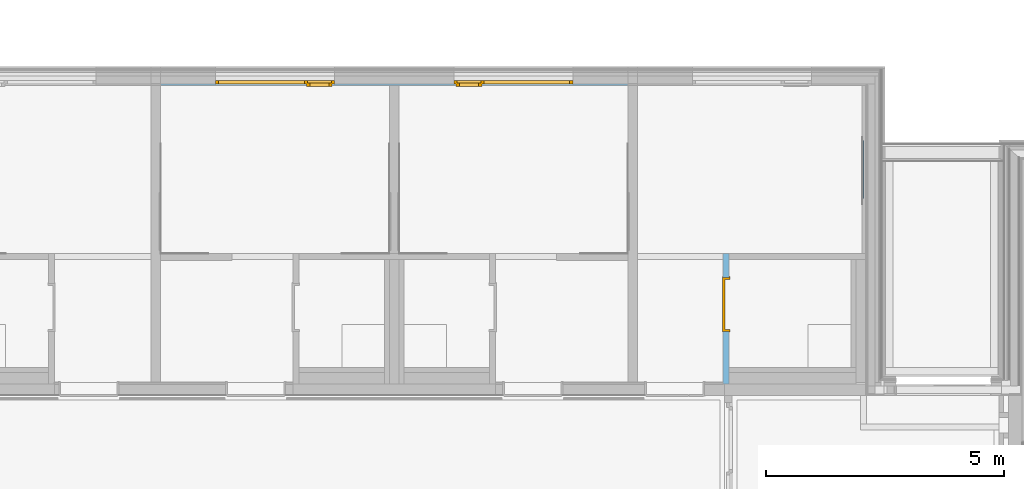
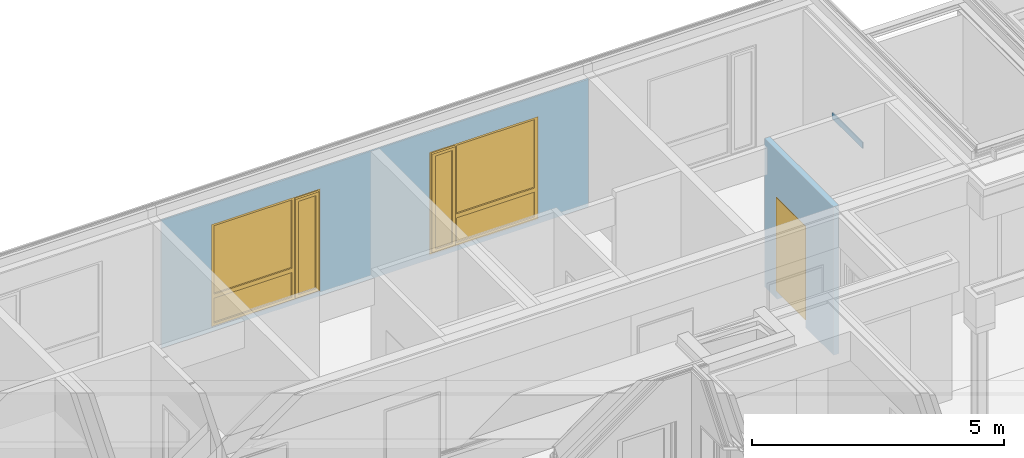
# One storey, part 113 of 207: 2 windows, 1 door, 1 wall, 3 openings, plus 2 elements that do not belong to this part.
"""IFC4 building model written with IfcOpenShell, lengths in metres."""

from ifc_helpers import new_model, entity, si_unit, converted_unit, derived_unit, frame, frame_2d, origin, origin_with_axes, place, context, subcontext, project, spatial, polyline, rectangle, outline, extrude, closed_shell, open_shell, faceted_brep, surface_model, source, transform, mapped, material, type_object, element, fill, save


model = new_model("IFC4")

# Units and contexts
model_context = context("Model", 3, precision=1e-05, world=origin())
body_context = subcontext(model_context, "Body", "Model", "MODEL_VIEW")
ifc_project = project(units=[si_unit("LENGTHUNIT", "METRE"), si_unit("AREAUNIT", "SQUARE_METRE"), si_unit("VOLUMEUNIT", "CUBIC_METRE"), si_unit("MASSUNIT", "GRAM", prefix="KILO"), converted_unit("PLANEANGLEUNIT", "DEGREE", entity("IfcPlaneAngleMeasure", 0.0174532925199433), si_unit("PLANEANGLEUNIT", "RADIAN"), dimensions=[0, 0, 0, 0, 0, 0, 0]), derived_unit("THERMALTRANSMITTANCEUNIT", [(si_unit("POWERUNIT", "WATT"), 1), (si_unit("THERMODYNAMICTEMPERATUREUNIT", "KELVIN"), -1), (si_unit("LENGTHUNIT", "METRE"), -2)]), derived_unit("VOLUMETRICFLOWRATEUNIT", [(si_unit("LENGTHUNIT", "METRE"), 3), (converted_unit("TIMEUNIT", "hour", entity("IfcTimeMeasure", 3600.0), si_unit("TIMEUNIT", "SECOND"), dimensions=[0, 0, 1, 0, 0, 0, 0]), -1), (si_unit("LENGTHUNIT", "METRE"), -1)])], contexts=[model_context])

# Site, building, storey
site_placement = place(None, origin())
site = spatial("IfcSite", under=ifc_project, at=site_placement, Name="Psychiatrie Neubau Wunstorf", CompositionType="ELEMENT")
building_placement = place(site_placement, origin())
building = spatial("IfcBuilding", under=site, at=building_placement, Name="Neubau H2 Stationsgebäude", CompositionType="ELEMENT")
storey_placement = place(building_placement, frame((0.0, 0.0, -0.2)))
storey = spatial("IfcBuildingStorey", under=building, at=storey_placement, Name="H2 Ebene 0", CompositionType="ELEMENT", Elevation=-0.2)

# Wall, openings, windows
ifc_material_1 = material(Name="WA-LB")
wall_1_placement = place(storey_placement, frame((20.1, 30.614, 0.5), z_axis=(0.0, 0.0, 1.0), x_axis=(1.0, -7.42444654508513e-16, 0.0)))
wall_1 = element("IfcWall", 1, at=wall_1_placement, inside=storey, material=ifc_material_1, context=body_context, shape_type="SweptSolid", body=[
    extrude(rectangle(XDim=9.8, YDim=0.036, at=frame_2d((4.9, 0.018), x_axis=(1.0, 0.0))), origin_with_axes(), (0.0, 0.0, 1.0), 3.1),
])
opening_1_placement = place(wall_1_placement, frame((1.15, 0.0, 0.1), z_axis=(0.0, 1.0, 0.0), x_axis=(0.0, 0.0, 1.0)))
opening_1 = element("IfcOpeningElement", 2, at=opening_1_placement, cuts=wall_1, Name="Fensteröffnung", ObjectType="Opening", context=body_context, shape_type="SweptSolid", body=[
    extrude(outline(polyline([(2.5, 2.5), (2.5, 0.0), (0.0, 0.0), (0.0, 2.5), (2.5, 2.5)])), origin_with_axes(), (0.0, 0.0, 1.0), 0.036),
])
opening_2_placement = place(wall_1_placement, frame((6.15, 0.0, 0.1), z_axis=(0.0, 1.0, 0.0), x_axis=(0.0, 0.0, 1.0)))
opening_2 = element("IfcOpeningElement", 3, at=opening_2_placement, cuts=wall_1, Name="Fensteröffnung", ObjectType="Opening", context=body_context, shape_type="SweptSolid", body=[
    extrude(outline(polyline([(2.5, 2.5), (2.5, 0.0), (0.0, 0.0), (0.0, 2.5), (2.5, 2.5)])), origin_with_axes(), (0.0, 0.0, 1.0), 0.036),
])
shared_shape_1 = source(origin_with_axes(), body_context, "Body", "SurfaceModel", [
    surface_model("IfcShellBasedSurfaceModel", [(2.5, 0.0, 2.5), (2.5, 0.0, 0.0), (2.43, 0.0, 0.0), (2.43, 0.0, 2.5), (2.5, 0.0699999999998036, 0.0), (2.5, 0.0699999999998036, 2.5), (2.43, 0.0699999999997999, 2.5), (2.43, 0.0699999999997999, 0.0)], [closed_shell([[[0, 1, 2, 3]], [[4, 5, 6, 7]], [[1, 0, 5, 4]], [[2, 1, 4, 7]], [[3, 2, 7, 6]], [[0, 3, 6, 5]]], orient=[[False], [False], [False], [False], [False], [False]])]),
    surface_model("IfcShellBasedSurfaceModel", [(0.07, 0.0, 2.5), (0.07, 0.0, 0.0), (0.0, 0.0, 0.0), (0.0, 0.0, 2.5), (0.07, 0.0699999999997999, 0.0), (0.07, 0.0699999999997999, 2.5), (0.0, 0.0699999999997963, 2.5), (0.0, 0.0699999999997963, 0.0)], [closed_shell([[[0, 1, 2, 3]], [[4, 5, 6, 7]], [[1, 0, 5, 4]], [[2, 1, 4, 7]], [[3, 2, 7, 6]], [[0, 3, 6, 5]]], orient=[[False], [False], [False], [False], [False], [False]])]),
    surface_model("IfcShellBasedSurfaceModel", [(2.43, 0.0, 0.07), (2.43, 0.0, 0.0), (0.07, 0.0, 0.0), (0.07, 0.0, 0.07), (2.43, 0.0699999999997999, 0.0), (2.43, 0.0699999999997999, 0.07), (0.07, 0.0699999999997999, 0.07), (0.07, 0.0699999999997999, 0.0)], [closed_shell([[[0, 1, 2, 3]], [[4, 5, 6, 7]], [[1, 0, 5, 4]], [[2, 1, 4, 7]], [[3, 2, 7, 6]], [[0, 3, 6, 5]]], orient=[[False], [False], [False], [False], [False], [False]])]),
    surface_model("IfcShellBasedSurfaceModel", [(2.43, 0.0, 2.5), (2.43, 0.0, 2.43), (0.07, 0.0, 2.43), (0.07, 0.0, 2.5), (2.43, 0.0699999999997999, 2.43), (2.43, 0.0699999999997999, 2.5), (0.07, 0.0699999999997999, 2.5), (0.07, 0.0699999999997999, 2.43)], [closed_shell([[[0, 1, 2, 3]], [[4, 5, 6, 7]], [[1, 0, 5, 4]], [[2, 1, 4, 7]], [[3, 2, 7, 6]], [[0, 3, 6, 5]]], orient=[[False], [False], [False], [False], [False], [False]])]),
    surface_model("IfcShellBasedSurfaceModel", [(1.934285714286, 0.0, 2.43), (1.934285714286, 0.0, 0.07), (1.864285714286, 0.0, 0.07), (1.864285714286, 0.0, 2.43), (1.934285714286, 0.0699999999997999, 0.07), (1.934285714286, 0.0699999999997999, 2.43), (1.864285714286, 0.0699999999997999, 2.43), (1.864285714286, 0.0699999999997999, 0.07)], [closed_shell([[[0, 1, 2, 3]], [[4, 5, 6, 7]], [[1, 0, 5, 4]], [[2, 1, 4, 7]], [[3, 2, 7, 6]], [[0, 3, 6, 5]]], orient=[[False], [False], [False], [False], [False], [False]])]),
    surface_model("IfcShellBasedSurfaceModel", [(2.45, -0.0500000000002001, 2.45), (2.45, -0.0500000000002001, 0.05), (2.38, -0.0500000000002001, 0.05), (2.38, -0.0500000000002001, 2.45), (2.45, 0.0199999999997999, 0.05), (2.45, 0.0199999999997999, 2.45), (2.38, 0.0199999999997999, 2.45), (2.38, 0.0199999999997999, 0.05)], [closed_shell([[[0, 1, 2, 3]], [[4, 5, 6, 7]], [[1, 0, 5, 4]], [[2, 1, 4, 7]], [[3, 2, 7, 6]], [[0, 3, 6, 5]]], orient=[[False], [False], [False], [False], [False], [False]])]),
    surface_model("IfcShellBasedSurfaceModel", [(1.984285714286, -0.0500000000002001, 2.45), (1.984285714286, -0.0500000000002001, 0.05), (1.914285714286, -0.0500000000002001, 0.05), (1.914285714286, -0.0500000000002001, 2.45), (1.984285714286, 0.0199999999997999, 0.05), (1.984285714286, 0.0199999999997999, 2.45), (1.914285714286, 0.0199999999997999, 2.45), (1.914285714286, 0.0199999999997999, 0.05)], [closed_shell([[[0, 1, 2, 3]], [[4, 5, 6, 7]], [[1, 0, 5, 4]], [[2, 1, 4, 7]], [[3, 2, 7, 6]], [[0, 3, 6, 5]]], orient=[[False], [False], [False], [False], [False], [False]])]),
    surface_model("IfcShellBasedSurfaceModel", [(2.38, -0.0500000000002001, 0.12), (2.38, -0.0500000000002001, 0.05), (1.984285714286, -0.0500000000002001, 0.05), (1.984285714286, -0.0500000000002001, 0.12), (2.38, 0.0199999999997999, 0.05), (2.38, 0.0199999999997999, 0.12), (1.984285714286, 0.0199999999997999, 0.12), (1.984285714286, 0.0199999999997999, 0.05)], [closed_shell([[[0, 1, 2, 3]], [[4, 5, 6, 7]], [[1, 0, 5, 4]], [[2, 1, 4, 7]], [[3, 2, 7, 6]], [[0, 3, 6, 5]]], orient=[[False], [False], [False], [False], [False], [False]])]),
    surface_model("IfcShellBasedSurfaceModel", [(2.38, -0.0500000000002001, 2.45), (2.38, -0.0500000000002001, 2.38), (1.984285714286, -0.0500000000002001, 2.38), (1.984285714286, -0.0500000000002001, 2.45), (2.38, 0.0199999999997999, 2.38), (2.38, 0.0199999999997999, 2.45), (1.984285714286, 0.0199999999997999, 2.45), (1.984285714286, 0.0199999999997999, 2.38)], [closed_shell([[[0, 1, 2, 3]], [[4, 5, 6, 7]], [[1, 0, 5, 4]], [[2, 1, 4, 7]], [[3, 2, 7, 6]], [[0, 3, 6, 5]]], orient=[[False], [False], [False], [False], [False], [False]])]),
    surface_model("IfcShellBasedSurfaceModel", [(1.864285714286, 0.0, 0.77), (1.864285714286, 0.0, 0.67), (0.07, 0.0, 0.67), (0.07, 0.0, 0.77), (1.864285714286, 0.0699999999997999, 0.67), (1.864285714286, 0.0699999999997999, 0.77), (0.07, 0.0699999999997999, 0.77), (0.07, 0.0699999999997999, 0.67)], [closed_shell([[[0, 1, 2, 3]], [[4, 5, 6, 7]], [[1, 0, 5, 4]], [[2, 1, 4, 7]], [[3, 2, 7, 6]], [[0, 3, 6, 5]]], orient=[[False], [False], [False], [False], [False], [False]])]),
    surface_model("IfcShellBasedSurfaceModel", [(2.38, -0.0150000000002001, 0.12), (1.984285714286, -0.0150000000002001, 0.12), (1.984285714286, -0.0150000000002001, 2.38), (2.38, -0.0150000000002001, 2.38)], [open_shell([[[0, 1, 2, 3]]], orient=[[False]])]),
    surface_model("IfcShellBasedSurfaceModel", [(1.864285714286, 0.0349999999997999, 0.07), (0.07, 0.0349999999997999, 0.07), (0.07, 0.0349999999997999, 0.67), (1.864285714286, 0.0349999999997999, 0.67)], [open_shell([[[0, 1, 2, 3]]], orient=[[False]])]),
    surface_model("IfcShellBasedSurfaceModel", [(1.864285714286, 0.0349999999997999, 0.77), (0.07, 0.0349999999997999, 0.77), (0.07, 0.0349999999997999, 2.43), (1.864285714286, 0.0349999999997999, 2.43)], [open_shell([[[0, 1, 2, 3]]], orient=[[False]])]),
])
window_1_placement = place(opening_1_placement, frame((0.0, 0.0, 0.03), z_axis=(1.0, 0.0, 0.0), x_axis=(0.0, 1.0, -7.12746868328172e-16)))
window_1 = element("IfcWindow", 4, at=window_1_placement, inside=storey, Name="Fenster", OverallHeight=2.5, OverallWidth=2.5, PartitioningType="USERDEFINED", PredefinedType="WINDOW", context=body_context, shape_type="MappedRepresentation", body=[
    mapped(shared_shape_1, transform((0.0, 0.0, 0.0), x_axis=(1.0, 0.0, 0.0), y_axis=(0.0, 1.0, 0.0), z_axis=(0.0, 0.0, 1.0), scale=1.0)),
])
fill(opening_1, window_1)
shared_shape_2 = source(origin_with_axes(), body_context, "Body", "SurfaceModel", [
    surface_model("IfcShellBasedSurfaceModel", [(0.0, 0.0, 2.5), (0.07, 0.0, 2.5), (0.07, 0.0, 0.0), (0.0, 0.0, 0.0), (0.0, 0.0699999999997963, 0.0), (0.07, 0.0699999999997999, 0.0), (0.07, 0.0699999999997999, 2.5), (0.0, 0.0699999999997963, 2.5)], [closed_shell([[[0, 1, 2, 3]], [[4, 5, 6, 7]], [[3, 4, 7, 0]], [[2, 5, 4, 3]], [[1, 6, 5, 2]], [[0, 7, 6, 1]]], orient=[[False], [False], [False], [False], [False], [False]])]),
    surface_model("IfcShellBasedSurfaceModel", [(2.43, 0.0, 2.5), (2.5, 0.0, 2.5), (2.5, 0.0, 0.0), (2.43, 0.0, 0.0), (2.43, 0.0699999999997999, 0.0), (2.5, 0.0699999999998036, 0.0), (2.5, 0.0699999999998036, 2.5), (2.43, 0.0699999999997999, 2.5)], [closed_shell([[[0, 1, 2, 3]], [[4, 5, 6, 7]], [[3, 4, 7, 0]], [[2, 5, 4, 3]], [[1, 6, 5, 2]], [[0, 7, 6, 1]]], orient=[[False], [False], [False], [False], [False], [False]])]),
    surface_model("IfcShellBasedSurfaceModel", [(0.07, 0.0, 0.07), (2.43, 0.0, 0.07), (2.43, 0.0, 0.0), (0.07, 0.0, 0.0), (0.07, 0.0699999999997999, 0.0), (2.43, 0.0699999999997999, 0.0), (2.43, 0.0699999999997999, 0.07), (0.07, 0.0699999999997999, 0.07)], [closed_shell([[[0, 1, 2, 3]], [[4, 5, 6, 7]], [[3, 4, 7, 0]], [[2, 5, 4, 3]], [[1, 6, 5, 2]], [[0, 7, 6, 1]]], orient=[[False], [False], [False], [False], [False], [False]])]),
    surface_model("IfcShellBasedSurfaceModel", [(0.07, 0.0, 2.5), (2.43, 0.0, 2.5), (2.43, 0.0, 2.43), (0.07, 0.0, 2.43), (0.07, 0.0699999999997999, 2.43), (2.43, 0.0699999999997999, 2.43), (2.43, 0.0699999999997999, 2.5), (0.07, 0.0699999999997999, 2.5)], [closed_shell([[[0, 1, 2, 3]], [[4, 5, 6, 7]], [[3, 4, 7, 0]], [[2, 5, 4, 3]], [[1, 6, 5, 2]], [[0, 7, 6, 1]]], orient=[[False], [False], [False], [False], [False], [False]])]),
    surface_model("IfcShellBasedSurfaceModel", [(0.565714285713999, 0.0, 2.43), (0.635714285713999, 0.0, 2.43), (0.635714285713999, 0.0, 0.07), (0.565714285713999, 0.0, 0.07), (0.565714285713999, 0.0699999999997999, 0.07), (0.635714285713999, 0.0699999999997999, 0.07), (0.635714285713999, 0.0699999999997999, 2.43), (0.565714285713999, 0.0699999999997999, 2.43)], [closed_shell([[[0, 1, 2, 3]], [[4, 5, 6, 7]], [[3, 4, 7, 0]], [[2, 5, 4, 3]], [[1, 6, 5, 2]], [[0, 7, 6, 1]]], orient=[[False], [False], [False], [False], [False], [False]])]),
    surface_model("IfcShellBasedSurfaceModel", [(0.05, -0.0500000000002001, 2.45), (0.12, -0.0500000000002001, 2.45), (0.12, -0.0500000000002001, 0.05), (0.05, -0.0500000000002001, 0.05), (0.05, 0.0199999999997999, 0.05), (0.12, 0.0199999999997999, 0.05), (0.12, 0.0199999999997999, 2.45), (0.05, 0.0199999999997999, 2.45)], [closed_shell([[[0, 1, 2, 3]], [[4, 5, 6, 7]], [[3, 4, 7, 0]], [[2, 5, 4, 3]], [[1, 6, 5, 2]], [[0, 7, 6, 1]]], orient=[[False], [False], [False], [False], [False], [False]])]),
    surface_model("IfcShellBasedSurfaceModel", [(0.515714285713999, -0.0500000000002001, 2.45), (0.585714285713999, -0.0500000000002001, 2.45), (0.585714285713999, -0.0500000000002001, 0.05), (0.515714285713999, -0.0500000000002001, 0.05), (0.515714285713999, 0.0199999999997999, 0.05), (0.585714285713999, 0.0199999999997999, 0.05), (0.585714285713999, 0.0199999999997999, 2.45), (0.515714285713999, 0.0199999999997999, 2.45)], [closed_shell([[[0, 1, 2, 3]], [[4, 5, 6, 7]], [[3, 4, 7, 0]], [[2, 5, 4, 3]], [[1, 6, 5, 2]], [[0, 7, 6, 1]]], orient=[[False], [False], [False], [False], [False], [False]])]),
    surface_model("IfcShellBasedSurfaceModel", [(0.12, -0.0500000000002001, 0.12), (0.515714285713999, -0.0500000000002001, 0.12), (0.515714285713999, -0.0500000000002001, 0.05), (0.12, -0.0500000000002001, 0.05), (0.12, 0.0199999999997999, 0.05), (0.515714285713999, 0.0199999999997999, 0.05), (0.515714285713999, 0.0199999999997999, 0.12), (0.12, 0.0199999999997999, 0.12)], [closed_shell([[[0, 1, 2, 3]], [[4, 5, 6, 7]], [[3, 4, 7, 0]], [[2, 5, 4, 3]], [[1, 6, 5, 2]], [[0, 7, 6, 1]]], orient=[[False], [False], [False], [False], [False], [False]])]),
    surface_model("IfcShellBasedSurfaceModel", [(0.12, -0.0500000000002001, 2.45), (0.515714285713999, -0.0500000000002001, 2.45), (0.515714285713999, -0.0500000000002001, 2.38), (0.12, -0.0500000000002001, 2.38), (0.12, 0.0199999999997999, 2.38), (0.515714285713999, 0.0199999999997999, 2.38), (0.515714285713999, 0.0199999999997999, 2.45), (0.12, 0.0199999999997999, 2.45)], [closed_shell([[[0, 1, 2, 3]], [[4, 5, 6, 7]], [[3, 4, 7, 0]], [[2, 5, 4, 3]], [[1, 6, 5, 2]], [[0, 7, 6, 1]]], orient=[[False], [False], [False], [False], [False], [False]])]),
    surface_model("IfcShellBasedSurfaceModel", [(0.635714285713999, 0.0, 0.77), (2.43, 0.0, 0.77), (2.43, 0.0, 0.67), (0.635714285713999, 0.0, 0.67), (0.635714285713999, 0.0699999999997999, 0.67), (2.43, 0.0699999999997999, 0.67), (2.43, 0.0699999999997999, 0.77), (0.635714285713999, 0.0699999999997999, 0.77)], [closed_shell([[[0, 1, 2, 3]], [[4, 5, 6, 7]], [[3, 4, 7, 0]], [[2, 5, 4, 3]], [[1, 6, 5, 2]], [[0, 7, 6, 1]]], orient=[[False], [False], [False], [False], [False], [False]])]),
    surface_model("IfcShellBasedSurfaceModel", [(0.12, -0.0150000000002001, 0.12), (0.12, -0.0150000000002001, 2.38), (0.515714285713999, -0.0150000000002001, 2.38), (0.515714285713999, -0.0150000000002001, 0.12)], [open_shell([[[0, 1, 2, 3]]], orient=[[False]])]),
    surface_model("IfcShellBasedSurfaceModel", [(0.635714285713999, 0.0349999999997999, 0.07), (0.635714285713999, 0.0349999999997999, 0.67), (2.43, 0.0349999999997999, 0.67), (2.43, 0.0349999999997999, 0.07)], [open_shell([[[0, 1, 2, 3]]], orient=[[False]])]),
    surface_model("IfcShellBasedSurfaceModel", [(0.635714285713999, 0.0349999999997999, 0.77), (0.635714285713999, 0.0349999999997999, 2.43), (2.43, 0.0349999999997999, 2.43), (2.43, 0.0349999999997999, 0.77)], [open_shell([[[0, 1, 2, 3]]], orient=[[False]])]),
])
window_2_placement = place(opening_2_placement, frame((0.0, 0.0, 0.03), z_axis=(1.0, 0.0, 0.0), x_axis=(0.0, 1.0, -7.12746868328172e-16)))
window_2 = element("IfcWindow", 5, at=window_2_placement, inside=storey, Name="Fenster", OverallHeight=2.5, OverallWidth=2.5, PartitioningType="USERDEFINED", PredefinedType="WINDOW", context=body_context, shape_type="MappedRepresentation", body=[
    mapped(shared_shape_2, transform((0.0, 0.0, 0.0), x_axis=(1.0, 0.0, 0.0), y_axis=(0.0, 1.0, 0.0), z_axis=(0.0, 0.0, 1.0), scale=1.0)),
])
fill(opening_2, window_2)

# Wall
wall_2_placement = place(storey_placement, frame((34.814, 28.25175, 1.625)))
element("IfcWall", 6, at=wall_2_placement, inside=storey, Name="WV 1.1", context=body_context, shape_type="Brep", body=[
    faceted_brep([(0.025, 1.2, 0.0), (0.0, 1.2, 0.0), (0.0, 0.0, 0.0), (0.025, 0.0, 0.0), (0.0, 1.2, 0.15), (0.025, 1.2, 0.15), (0.025, 0.0, 0.15), (0.0, 0.0, 0.15)], [[[0, 1, 2, 3]], [[4, 5, 6, 7]], [[1, 0, 5, 4]], [[2, 1, 4, 7]], [[3, 2, 7, 6]], [[0, 3, 6, 5]]], orient=[[False], [False], [False], [False], [False], [False]]),
])

# Wall, opening, door
ifc_material_2 = material(Name="WI-LB")
wall_3_placement = place(storey_placement, frame((31.898, 27.0895, 0.0), z_axis=(0.0, 0.0, 1.0), x_axis=(0.0, -1.0, 0.0)))
wall_3 = element("IfcWall", 7, at=wall_3_placement, inside=storey, material=ifc_material_2, context=body_context, shape_type="SweptSolid", body=[
    extrude(rectangle(XDim=2.73999999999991, YDim=0.125, at=frame_2d((1.36999999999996, 0.0625), x_axis=(1.0, 0.0))), origin_with_axes(), (0.0, 0.0, 1.0), 3.6),
])
opening_3_placement = place(wall_3_placement, frame((1.635, 0.125, 0.0), z_axis=(0.0, -1.0, 0.0), x_axis=(0.0, 0.0, 1.0)))
opening_3 = element("IfcOpeningElement", 8, at=opening_3_placement, cuts=wall_3, Name="Türöffnung", ObjectType="Opening", context=body_context, shape_type="SweptSolid", body=[
    extrude(outline(polyline([(2.46, 1.135), (2.46, 0.0), (0.0, 0.0), (0.0, 1.135), (2.46, 1.135)])), origin_with_axes(), (0.0, 0.0, 1.0), 0.125),
])
ifc_material_3 = material(Name="TI-1F-UZ-D-N")
door_type = type_object("IfcDoorType", Name="SMT", OperationType="SINGLE_SWING_RIGHT", ParameterTakesPrecedence=False, PredefinedType="DOOR")
shared_shape_3 = source(origin_with_axes(), body_context, "Body", "Brep", [
    faceted_brep([(1.18499999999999, 0.0125000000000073, 0.0), (1.18499999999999, 0.112500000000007, 0.0), (1.13499999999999, 0.112500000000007, 0.0), (1.13499999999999, 0.0125000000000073, 0.0), (1.18499999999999, 0.112500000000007, 3.6), (1.18499999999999, 0.0125000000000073, 3.6), (1.13499999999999, 0.0125000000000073, 3.6), (1.13499999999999, 0.112500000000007, 3.6)], [[[0, 1, 2, 3]], [[4, 5, 6, 7]], [[1, 0, 5, 4]], [[2, 1, 4, 7]], [[3, 2, 7, 6]], [[0, 3, 6, 5]]], orient=[[False], [False], [False], [False], [False], [False]]),
    faceted_brep([(0.0, 0.0125000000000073, 0.0), (0.0, 0.112500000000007, 0.0), (-0.0500000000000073, 0.112500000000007, 0.0), (-0.0500000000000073, 0.0125000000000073, 0.0), (0.0, 0.112500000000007, 3.6), (0.0, 0.0125000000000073, 3.6), (-0.0500000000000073, 0.0125000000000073, 3.6), (-0.0500000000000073, 0.112500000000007, 3.6)], [[[0, 1, 2, 3]], [[4, 5, 6, 7]], [[1, 0, 5, 4]], [[2, 1, 4, 7]], [[3, 2, 7, 6]], [[0, 3, 6, 5]]], orient=[[False], [False], [False], [False], [False], [False]]),
    faceted_brep([(1.13499999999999, 0.0125000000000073, 2.46), (1.13499999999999, 0.112500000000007, 2.46), (0.0, 0.112500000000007, 2.46), (0.0, 0.0125000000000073, 2.46), (1.13499999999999, 0.112500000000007, 2.51), (1.13499999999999, 0.0125000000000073, 2.51), (0.0, 0.0125000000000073, 2.51), (0.0, 0.112500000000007, 2.51)], [[[0, 1, 2, 3]], [[4, 5, 6, 7]], [[1, 0, 5, 4]], [[2, 1, 4, 7]], [[3, 2, 7, 6]], [[0, 3, 6, 5]]], orient=[[False], [False], [False], [False], [False], [False]]),
])
shared_shape_4 = source(origin_with_axes(), body_context, "Body", "Brep", [
    faceted_brep([(0.0, -0.0149999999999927, 2.46), (0.0399999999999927, -0.0149999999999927, 2.46), (0.0399999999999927, -0.0149999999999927, 0.2), (0.0, -0.0149999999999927, 0.2), (0.0, 0.140000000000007, 0.2), (0.0399999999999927, 0.140000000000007, 0.2), (0.0399999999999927, 0.140000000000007, 2.46), (0.0, 0.140000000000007, 2.46)], [[[0, 1, 2, 3]], [[4, 5, 6, 7]], [[3, 4, 7, 0]], [[2, 5, 4, 3]], [[1, 6, 5, 2]], [[0, 7, 6, 1]]], orient=[[False], [False], [False], [False], [False], [False]]),
    faceted_brep([(0.0, -0.0149999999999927, 2.475), (0.0, -0.0149999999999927, 0.2), (-0.0150000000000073, -0.0149999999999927, 0.2), (-0.0150000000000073, -0.0149999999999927, 2.475), (0.0, 0.0, 0.2), (0.0, 0.0, 2.475), (-0.0150000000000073, 0.0, 2.475), (-0.0150000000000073, 0.0, 0.2)], [[[0, 1, 2, 3]], [[4, 5, 6, 7]], [[1, 0, 5, 4]], [[2, 1, 4, 7]], [[3, 2, 7, 6]], [[0, 3, 6, 5]]], orient=[[False], [False], [False], [False], [False], [False]]),
    faceted_brep([(0.0, 0.125000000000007, 2.475), (0.0, 0.125000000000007, 0.2), (-0.0150000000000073, 0.125000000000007, 0.2), (-0.0150000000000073, 0.125000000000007, 2.475), (0.0, 0.140000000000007, 0.2), (0.0, 0.140000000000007, 2.475), (-0.0150000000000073, 0.140000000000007, 2.475), (-0.0150000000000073, 0.140000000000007, 0.2)], [[[0, 1, 2, 3]], [[4, 5, 6, 7]], [[1, 0, 5, 4]], [[2, 1, 4, 7]], [[3, 2, 7, 6]], [[0, 3, 6, 5]]], orient=[[False], [False], [False], [False], [False], [False]]),
    faceted_brep([(1.09499999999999, -0.0149999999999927, 2.46), (1.13499999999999, -0.0149999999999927, 2.46), (1.13499999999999, -0.0149999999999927, 0.2), (1.09499999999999, -0.0149999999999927, 0.2), (1.09499999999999, 0.140000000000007, 0.2), (1.13499999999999, 0.140000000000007, 0.2), (1.13499999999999, 0.140000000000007, 2.46), (1.09499999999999, 0.140000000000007, 2.46)], [[[0, 1, 2, 3]], [[4, 5, 6, 7]], [[3, 4, 7, 0]], [[2, 5, 4, 3]], [[1, 6, 5, 2]], [[0, 7, 6, 1]]], orient=[[False], [False], [False], [False], [False], [False]]),
    faceted_brep([(1.13499999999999, -0.0149999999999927, 2.475), (1.14999999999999, -0.0149999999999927, 2.475), (1.14999999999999, -0.0149999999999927, 0.2), (1.13499999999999, -0.0149999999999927, 0.2), (1.13499999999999, 0.0, 0.2), (1.14999999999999, 0.0, 0.2), (1.14999999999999, 0.0, 2.475), (1.13499999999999, 0.0, 2.475)], [[[0, 1, 2, 3]], [[4, 5, 6, 7]], [[3, 4, 7, 0]], [[2, 5, 4, 3]], [[1, 6, 5, 2]], [[0, 7, 6, 1]]], orient=[[False], [False], [False], [False], [False], [False]]),
    faceted_brep([(1.13499999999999, 0.125000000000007, 2.475), (1.14999999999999, 0.125000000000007, 2.475), (1.14999999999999, 0.125000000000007, 0.2), (1.13499999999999, 0.125000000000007, 0.2), (1.13499999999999, 0.140000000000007, 0.2), (1.14999999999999, 0.140000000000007, 0.2), (1.14999999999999, 0.140000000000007, 2.475), (1.13499999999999, 0.140000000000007, 2.475)], [[[0, 1, 2, 3]], [[4, 5, 6, 7]], [[3, 4, 7, 0]], [[2, 5, 4, 3]], [[1, 6, 5, 2]], [[0, 7, 6, 1]]], orient=[[False], [False], [False], [False], [False], [False]]),
    faceted_brep([(0.0399999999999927, -0.0149999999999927, 2.46), (1.09499999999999, -0.0149999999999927, 2.46), (1.09499999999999, -0.0149999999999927, 2.42), (0.0399999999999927, -0.0149999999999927, 2.42), (0.0399999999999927, 0.140000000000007, 2.42), (1.09499999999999, 0.140000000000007, 2.42), (1.09499999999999, 0.140000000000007, 2.46), (0.0399999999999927, 0.140000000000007, 2.46)], [[[0, 1, 2, 3]], [[4, 5, 6, 7]], [[3, 4, 7, 0]], [[2, 5, 4, 3]], [[1, 6, 5, 2]], [[0, 7, 6, 1]]], orient=[[False], [False], [False], [False], [False], [False]]),
    faceted_brep([(0.0, -0.0149999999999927, 2.475), (1.13499999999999, -0.0149999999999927, 2.475), (1.13499999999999, -0.0149999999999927, 2.46), (0.0, -0.0149999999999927, 2.46), (0.0, 0.0, 2.46), (1.13499999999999, 0.0, 2.46), (1.13499999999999, 0.0, 2.475), (0.0, 0.0, 2.475)], [[[0, 1, 2, 3]], [[4, 5, 6, 7]], [[3, 4, 7, 0]], [[2, 5, 4, 3]], [[1, 6, 5, 2]], [[0, 7, 6, 1]]], orient=[[False], [False], [False], [False], [False], [False]]),
    faceted_brep([(0.0, 0.125000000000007, 2.475), (1.13499999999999, 0.125000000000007, 2.475), (1.13499999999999, 0.125000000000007, 2.46), (0.0, 0.125000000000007, 2.46), (0.0, 0.140000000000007, 2.46), (1.13499999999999, 0.140000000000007, 2.46), (1.13499999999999, 0.140000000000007, 2.475), (0.0, 0.140000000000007, 2.475)], [[[0, 1, 2, 3]], [[4, 5, 6, 7]], [[3, 4, 7, 0]], [[2, 5, 4, 3]], [[1, 6, 5, 2]], [[0, 7, 6, 1]]], orient=[[False], [False], [False], [False], [False], [False]]),
    faceted_brep([(0.0249999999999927, 0.0910000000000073, 2.435), (1.10999999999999, 0.0910000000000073, 2.435), (1.10999999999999, 0.0910000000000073, 0.2), (0.0249999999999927, 0.0910000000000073, 0.2), (0.0249999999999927, 0.141000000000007, 0.2), (1.10999999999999, 0.141000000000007, 0.2), (1.10999999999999, 0.141000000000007, 2.435), (0.0249999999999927, 0.141000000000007, 2.435)], [[[0, 1, 2, 3]], [[4, 5, 6, 7]], [[3, 4, 7, 0]], [[2, 5, 4, 3]], [[1, 6, 5, 2]], [[0, 7, 6, 1]]], orient=[[False], [False], [False], [False], [False], [False]]),
])
door_placement = place(opening_3_placement, frame((0.0, 0.0, 0.0), z_axis=(1.0, 0.0, 0.0), x_axis=(0.0, 1.0, 0.0)))
door = element("IfcDoor", 9, at=door_placement, inside=storey, type_object=door_type, material=ifc_material_3, Name="SMT", OverallHeight=2.46, OverallWidth=1.135, context=body_context, shape_type="MappedRepresentation", body=[
    mapped(shared_shape_3, transform((0.0, 0.0, 0.0), x_axis=(1.0, 0.0, 0.0), y_axis=(0.0, 1.0, 0.0), z_axis=(0.0, 0.0, 1.0), scale=1.0)),
    mapped(shared_shape_4, transform((0.0, 0.0, 0.0), x_axis=(1.0, 0.0, 0.0), y_axis=(0.0, 1.0, 0.0), z_axis=(0.0, 0.0, 1.0), scale=1.0)),
])
fill(opening_3, door)

save(model, "model.ifc")
